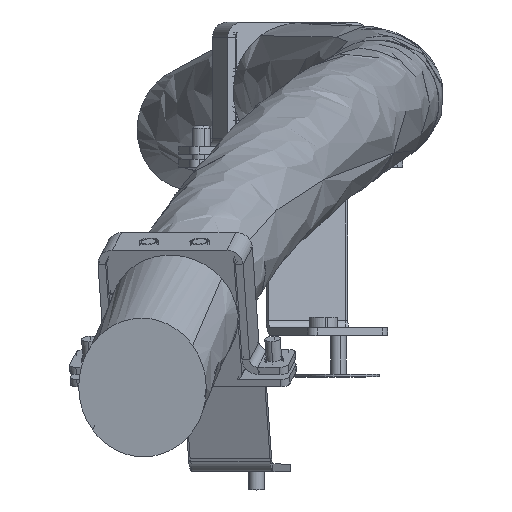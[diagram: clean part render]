
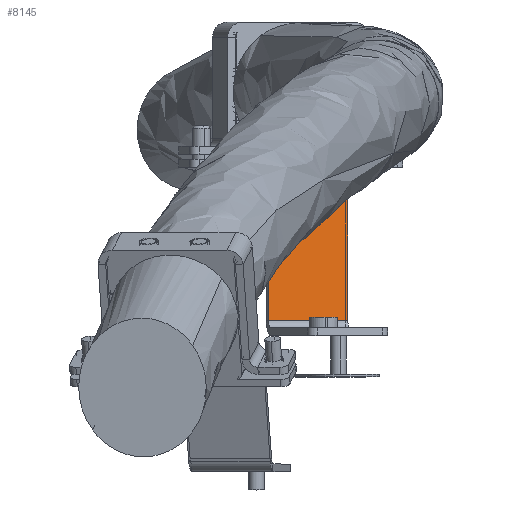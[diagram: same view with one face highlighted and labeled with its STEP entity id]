
A CAD part, top view. The second image highlights one B-rep face of the part: STEP entity #8145.
In plain terms, the highlighted planar face has unit normal (0.292, 0, 0.956).
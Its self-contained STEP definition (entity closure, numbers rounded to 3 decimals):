
#1252 = LINE ( 'NONE', #4363, #5294 ) ;
#1825 = DIRECTION ( 'NONE',  ( 0.956, 0., -0.292 ) ) ;
#2657 = VECTOR ( 'NONE', #7312, 1000. ) ;
#2795 = ORIENTED_EDGE ( 'NONE', *, *, #4939, .T. ) ;
#3243 = LINE ( 'NONE', #8321, #2657 ) ;
#3522 = CARTESIAN_POINT ( 'NONE',  ( 415.939, -343.997, 996.255 ) ) ;
#3687 = PLANE ( 'NONE',  #9195 ) ;
#3812 = VERTEX_POINT ( 'NONE', #11060 ) ;
#4232 = VERTEX_POINT ( 'NONE', #10976 ) ;
#4363 = CARTESIAN_POINT ( 'NONE',  ( 415.939, -287.997, 996.255 ) ) ;
#4843 = CARTESIAN_POINT ( 'NONE',  ( 415.939, -287.997, 996.255 ) ) ;
#4939 = EDGE_CURVE ( 'NONE', #7845, #12311, #3243, .T. ) ;
#5136 = ORIENTED_EDGE ( 'NONE', *, *, #11995, .T. ) ;
#5294 = VECTOR ( 'NONE', #11670, 1000. ) ;
#5861 = FACE_OUTER_BOUND ( 'NONE', #6650, .T. ) ;
#6232 = CARTESIAN_POINT ( 'NONE',  ( 446.54, -343.997, 986.899 ) ) ;
#6650 = EDGE_LOOP ( 'NONE', ( #2795, #8424, #6762, #5136 ) ) ;
#6762 = ORIENTED_EDGE ( 'NONE', *, *, #8051, .F. ) ;
#6975 = LINE ( 'NONE', #8057, #7634 ) ;
#7169 = CARTESIAN_POINT ( 'NONE',  ( 446.54, -287.997, 986.899 ) ) ;
#7312 = DIRECTION ( 'NONE',  ( 0.956, 0., -0.292 ) ) ;
#7467 = VECTOR ( 'NONE', #11756, 1000. ) ;
#7634 = VECTOR ( 'NONE', #1825, 1000. ) ;
#7828 = DIRECTION ( 'NONE',  ( 0.292, 0., 0.956 ) ) ;
#7845 = VERTEX_POINT ( 'NONE', #3522 ) ;
#8051 = EDGE_CURVE ( 'NONE', #3812, #4232, #6975, .T. ) ;
#8057 = CARTESIAN_POINT ( 'NONE',  ( 415.939, -287.997, 996.255 ) ) ;
#8145 = ADVANCED_FACE ( 'NONE', ( #5861 ), #3687, .T. ) ;
#8183 = LINE ( 'NONE', #7169, #7467 ) ;
#8321 = CARTESIAN_POINT ( 'NONE',  ( 415.939, -343.997, 996.255 ) ) ;
#8424 = ORIENTED_EDGE ( 'NONE', *, *, #8995, .F. ) ;
#8995 = EDGE_CURVE ( 'NONE', #4232, #12311, #8183, .T. ) ;
#9195 = AXIS2_PLACEMENT_3D ( 'NONE', #4843, #7828, #11944 ) ;
#10976 = CARTESIAN_POINT ( 'NONE',  ( 446.54, -287.997, 986.899 ) ) ;
#11060 = CARTESIAN_POINT ( 'NONE',  ( 415.939, -287.997, 996.255 ) ) ;
#11670 = DIRECTION ( 'NONE',  ( 0., -1., 0. ) ) ;
#11756 = DIRECTION ( 'NONE',  ( 0., -1., 0. ) ) ;
#11944 = DIRECTION ( 'NONE',  ( 0., -1., 0. ) ) ;
#11995 = EDGE_CURVE ( 'NONE', #3812, #7845, #1252, .T. ) ;
#12311 = VERTEX_POINT ( 'NONE', #6232 ) ;
